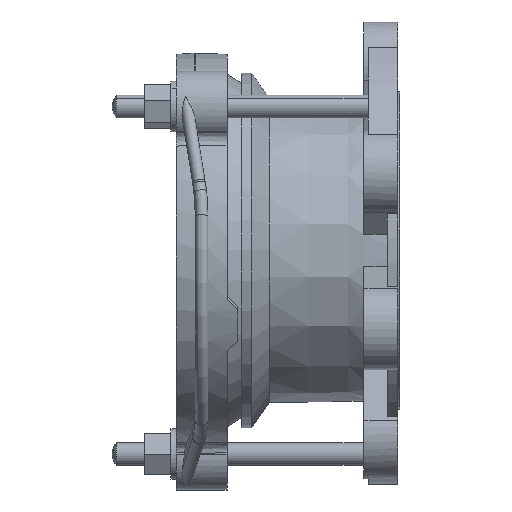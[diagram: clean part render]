
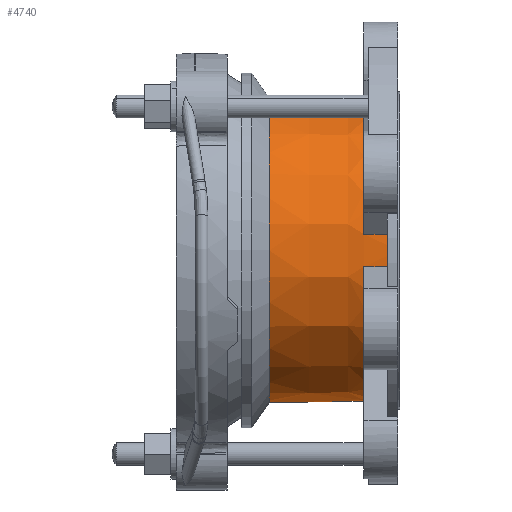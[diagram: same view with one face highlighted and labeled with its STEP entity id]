
A CAD part, left-side view. The second image highlights one B-rep face of the part: STEP entity #4740.
In plain terms, the highlighted conical face has half-angle 0.966 degrees and reference radius 71.487 mm.
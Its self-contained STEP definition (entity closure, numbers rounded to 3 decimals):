
#357=CARTESIAN_POINT('',(0.,-88.7,0.));
#358=DIRECTION('',(0.,1.,0.));
#359=DIRECTION('',(-0.108,0.,-0.994));
#360=AXIS2_PLACEMENT_3D('',#357,#358,#359);
#393=CARTESIAN_POINT('',(0.,-90.7,0.));
#394=DIRECTION('',(0.,-1.,0.));
#395=DIRECTION('',(-0.627,0.,0.779));
#396=AXIS2_PLACEMENT_3D('',#393,#394,#395);
#398=CARTESIAN_POINT('',(-55.449,-90.7,44.615));
#399=CARTESIAN_POINT('',(-55.454,-90.367,44.618));
#400=CARTESIAN_POINT('',(-55.465,-89.7,44.622));
#401=CARTESIAN_POINT('',(-55.476,-89.033,44.627));
#402=CARTESIAN_POINT('',(-55.481,-88.7,44.629));
#404=CARTESIAN_POINT('',(-70.788,-88.7,7.674));
#405=CARTESIAN_POINT('',(-70.769,-89.924,7.665));
#406=CARTESIAN_POINT('',(-70.729,-92.371,7.649));
#407=CARTESIAN_POINT('',(-70.669,-96.037,7.624));
#408=CARTESIAN_POINT('',(-70.63,-98.48,7.608));
#409=CARTESIAN_POINT('',(-70.61,-99.7,7.6));
#411=CARTESIAN_POINT('',(0.,-99.7,0.));
#412=DIRECTION('',(0.,1.,0.));
#413=DIRECTION('',(-0.994,0.,-0.107));
#414=AXIS2_PLACEMENT_3D('',#411,#412,#413);
#416=CARTESIAN_POINT('',(-70.61,-99.7,-7.6));
#417=CARTESIAN_POINT('',(-70.63,-98.48,
-7.608));
#418=CARTESIAN_POINT('',(-70.669,-96.037,
-7.624));
#419=CARTESIAN_POINT('',(-70.729,-92.371,
-7.649));
#420=CARTESIAN_POINT('',(-70.769,-89.924,
-7.665));
#421=CARTESIAN_POINT('',(-70.788,-88.7,-7.674));
#423=CARTESIAN_POINT('',(-55.481,-88.7,-44.629));
#424=CARTESIAN_POINT('',(-55.461,-89.924,
-44.621));
#425=CARTESIAN_POINT('',(-55.421,-92.371,
-44.604));
#426=CARTESIAN_POINT('',(-55.362,-96.037,
-44.58));
#427=CARTESIAN_POINT('',(-55.322,-98.48,
-44.563));
#428=CARTESIAN_POINT('',(-55.302,-99.7,-44.555));
#430=CARTESIAN_POINT('',(0.,-99.7,0.));
#431=DIRECTION('',(0.,1.,0.));
#432=DIRECTION('',(-0.627,0.,-0.779));
#433=AXIS2_PLACEMENT_3D('',#430,#431,#432);
#435=CARTESIAN_POINT('',(-44.555,-99.7,-55.302));
#436=CARTESIAN_POINT('',(-44.563,-98.48,
-55.322));
#437=CARTESIAN_POINT('',(-44.58,-96.037,
-55.362));
#438=CARTESIAN_POINT('',(-44.604,-92.371,
-55.421));
#439=CARTESIAN_POINT('',(-44.621,-89.924,
-55.461));
#440=CARTESIAN_POINT('',(-44.629,-88.7,-55.481));
#442=CARTESIAN_POINT('',(-7.674,-88.7,-70.788));
#443=CARTESIAN_POINT('',(-7.671,-89.033,
-70.783));
#444=CARTESIAN_POINT('',(-7.667,-89.7,
-70.772));
#445=CARTESIAN_POINT('',(-7.662,-90.367,
-70.761));
#446=CARTESIAN_POINT('',(-7.66,-90.7,-70.756));
#448=CARTESIAN_POINT('',(0.,-90.7,0.));
#449=DIRECTION('',(0.,-1.,0.));
#450=DIRECTION('',(-0.108,0.,-0.994));
#451=AXIS2_PLACEMENT_3D('',#448,#449,#450);
#453=DIRECTION('',(0.,1.,-0.017));
#454=VECTOR('',#453,46.661);
#455=CARTESIAN_POINT('',(0.,-90.7,-71.169));
#456=LINE('',#455,#454);
#457=DIRECTION('',(0.,1.,0.017));
#458=VECTOR('',#457,55.663);
#459=CARTESIAN_POINT('',(0.,-99.7,71.018));
#460=LINE('',#459,#458);
#461=CARTESIAN_POINT('',(0.,-99.7,0.));
#462=DIRECTION('',(0.,1.,0.));
#463=DIRECTION('',(-0.107,0.,0.994));
#464=AXIS2_PLACEMENT_3D('',#461,#462,#463);
#466=CARTESIAN_POINT('',(-7.6,-99.7,70.61));
#467=CARTESIAN_POINT('',(-7.608,-98.48,70.63));
#468=CARTESIAN_POINT('',(-7.624,-96.037,70.669));
#469=CARTESIAN_POINT('',(-7.649,-92.371,70.729));
#470=CARTESIAN_POINT('',(-7.665,-89.924,70.769));
#471=CARTESIAN_POINT('',(-7.674,-88.7,70.788));
#473=CARTESIAN_POINT('',(-44.629,-88.7,55.481));
#474=CARTESIAN_POINT('',(-44.627,-89.033,55.476));
#475=CARTESIAN_POINT('',(-44.622,-89.7,55.465));
#476=CARTESIAN_POINT('',(-44.618,-90.367,55.454));
#477=CARTESIAN_POINT('',(-44.615,-90.7,55.449));
#2718=CARTESIAN_POINT('',(0.,-44.045,0.));
#2719=DIRECTION('',(0.,1.,0.));
#2720=DIRECTION('',(0.,0.,-1.));
#2721=AXIS2_PLACEMENT_3D('',#2718,#2719,#2720);
#3149=CARTESIAN_POINT('',(0.,-88.7,0.));
#3150=DIRECTION('',(0.,1.,0.));
#3151=DIRECTION('',(-0.627,0.,0.779));
#3152=AXIS2_PLACEMENT_3D('',#3149,#3150,#3151);
#3214=CARTESIAN_POINT('',(0.,-88.7,0.));
#3215=DIRECTION('',(0.,1.,0.));
#3216=DIRECTION('',(-0.994,0.,0.108));
#3217=AXIS2_PLACEMENT_3D('',#3214,#3215,#3216);
#3371=CARTESIAN_POINT('',(0.,-88.7,0.));
#3372=DIRECTION('',(0.,1.,0.));
#3373=DIRECTION('',(-0.779,0.,-0.627));
#3374=AXIS2_PLACEMENT_3D('',#3371,#3372,#3373);
#3668=CARTESIAN_POINT('',(0.,-44.045,-71.956));
#3670=VERTEX_POINT('',#3668);
#3684=CARTESIAN_POINT('',(0.,-99.7,71.018));
#3685=CARTESIAN_POINT('',(0.,-44.045,71.956));
#3686=VERTEX_POINT('',#3684);
#3687=VERTEX_POINT('',#3685);
#4062=CARTESIAN_POINT('',(-44.629,-88.7,55.481));
#4063=VERTEX_POINT('',#4062);
#4064=CARTESIAN_POINT('',(-7.674,-88.7,70.788));
#4065=VERTEX_POINT('',#4064);
#4088=CARTESIAN_POINT('',(-70.788,-88.7,7.674));
#4089=VERTEX_POINT('',#4088);
#4090=CARTESIAN_POINT('',(-55.481,-88.7,44.629));
#4091=VERTEX_POINT('',#4090);
#4116=CARTESIAN_POINT('',(-55.481,-88.7,-44.629));
#4117=VERTEX_POINT('',#4116);
#4118=CARTESIAN_POINT('',(-70.788,-88.7,-7.674));
#4119=VERTEX_POINT('',#4118);
#4142=CARTESIAN_POINT('',(-7.674,-88.7,-70.788));
#4143=VERTEX_POINT('',#4142);
#4144=CARTESIAN_POINT('',(-44.629,-88.7,-55.481));
#4145=VERTEX_POINT('',#4144);
#4187=CARTESIAN_POINT('',(-7.6,-99.7,70.61));
#4188=VERTEX_POINT('',#4187);
#4189=VERTEX_POINT('',#409);
#4198=CARTESIAN_POINT('',(-70.61,-99.7,-7.6));
#4199=VERTEX_POINT('',#4198);
#4204=CARTESIAN_POINT('',(-55.302,-99.7,-44.555));
#4205=VERTEX_POINT('',#4204);
#4206=VERTEX_POINT('',#435);
#4211=CARTESIAN_POINT('',(0.,-90.7,-71.169));
#4213=VERTEX_POINT('',#4211);
#4215=CARTESIAN_POINT('',(-7.66,-90.7,-70.756));
#4216=VERTEX_POINT('',#4215);
#4245=CARTESIAN_POINT('',(-44.615,-90.7,55.449));
#4246=CARTESIAN_POINT('',(-55.449,-90.7,44.615));
#4247=VERTEX_POINT('',#4245);
#4248=VERTEX_POINT('',#4246);
#4696=CARTESIAN_POINT('',(0.,-71.873,0.));
#4697=DIRECTION('',(0.,1.,0.));
#4698=DIRECTION('',(0.,0.,-1.));
#4699=AXIS2_PLACEMENT_3D('',#4696,#4697,#4698);
#4700=CONICAL_SURFACE('',#4699,71.487,0.966);
#4702=ORIENTED_EDGE('',*,*,#4701,.T.);
#4704=ORIENTED_EDGE('',*,*,#4703,.T.);
#4706=ORIENTED_EDGE('',*,*,#4705,.F.);
#4708=ORIENTED_EDGE('',*,*,#4707,.T.);
#4710=ORIENTED_EDGE('',*,*,#4709,.F.);
#4712=ORIENTED_EDGE('',*,*,#4711,.T.);
#4714=ORIENTED_EDGE('',*,*,#4713,.F.);
#4716=ORIENTED_EDGE('',*,*,#4715,.T.);
#4718=ORIENTED_EDGE('',*,*,#4717,.F.);
#4720=ORIENTED_EDGE('',*,*,#4719,.T.);
#4721=ORIENTED_EDGE('',*,*,#4679,.F.);
#4723=ORIENTED_EDGE('',*,*,#4722,.T.);
#4725=ORIENTED_EDGE('',*,*,#4724,.T.);
#4726=ORIENTED_EDGE('',*,*,#4332,.T.);
#4728=ORIENTED_EDGE('',*,*,#4727,.T.);
#4729=ORIENTED_EDGE('',*,*,#4328,.F.);
#4731=ORIENTED_EDGE('',*,*,#4730,.F.);
#4733=ORIENTED_EDGE('',*,*,#4732,.T.);
#4735=ORIENTED_EDGE('',*,*,#4734,.F.);
#4737=ORIENTED_EDGE('',*,*,#4736,.T.);
#4738=EDGE_LOOP('',(#4702,#4704,#4706,#4708,#4710,#4712,#4714,#4716,#4718,#4720,
#4721,#4723,#4725,#4726,#4728,#4729,#4731,#4733,#4735,#4737));
#4739=FACE_OUTER_BOUND('',#4738,.F.);
#4740=ADVANCED_FACE('',(#4739),#4700,.T.);
#361=CIRCLE('',#360,71.203);
#397=CIRCLE('',#396,71.169);
#403=B_SPLINE_CURVE_WITH_KNOTS('',3,(#398,#399,#400,#401,#402),.UNSPECIFIED.,
.F.,.F.,(4,1,4),(0.,0.5,1.),.UNSPECIFIED.);
#410=B_SPLINE_CURVE_WITH_KNOTS('',3,(#404,#405,#406,#407,#408,#409),
.UNSPECIFIED.,.F.,.F.,(4,1,1,4),(0.,0.333,0.667,1.),
.UNSPECIFIED.);
#415=CIRCLE('',#414,71.018);
#422=B_SPLINE_CURVE_WITH_KNOTS('',3,(#416,#417,#418,#419,#420,#421),
.UNSPECIFIED.,.F.,.F.,(4,1,1,4),(0.,0.333,0.667,1.),
.UNSPECIFIED.);
#429=B_SPLINE_CURVE_WITH_KNOTS('',3,(#423,#424,#425,#426,#427,#428),
.UNSPECIFIED.,.F.,.F.,(4,1,1,4),(0.,0.333,0.667,1.),
.UNSPECIFIED.);
#434=CIRCLE('',#433,71.018);
#441=B_SPLINE_CURVE_WITH_KNOTS('',3,(#435,#436,#437,#438,#439,#440),
.UNSPECIFIED.,.F.,.F.,(4,1,1,4),(0.,0.333,0.667,1.),
.UNSPECIFIED.);
#447=B_SPLINE_CURVE_WITH_KNOTS('',3,(#442,#443,#444,#445,#446),.UNSPECIFIED.,
.F.,.F.,(4,1,4),(0.,0.5,1.),.UNSPECIFIED.);
#452=CIRCLE('',#451,71.169);
#465=CIRCLE('',#464,71.018);
#472=B_SPLINE_CURVE_WITH_KNOTS('',3,(#466,#467,#468,#469,#470,#471),
.UNSPECIFIED.,.F.,.F.,(4,1,1,4),(0.,0.333,0.667,1.),
.UNSPECIFIED.);
#478=B_SPLINE_CURVE_WITH_KNOTS('',3,(#473,#474,#475,#476,#477),.UNSPECIFIED.,
.F.,.F.,(4,1,4),(0.,0.5,1.),.UNSPECIFIED.);
#2722=CIRCLE('',#2721,71.956);
#3153=CIRCLE('',#3152,71.203);
#3218=CIRCLE('',#3217,71.203);
#3375=CIRCLE('',#3374,71.203);
#4328=EDGE_CURVE('',#3686,#3687,#460,.T.);
#4332=EDGE_CURVE('',#4213,#3670,#456,.T.);
#4679=EDGE_CURVE('',#4143,#4145,#361,.T.);
#4701=EDGE_CURVE('',#4247,#4248,#397,.T.);
#4703=EDGE_CURVE('',#4248,#4091,#403,.T.);
#4705=EDGE_CURVE('',#4089,#4091,#3218,.T.);
#4707=EDGE_CURVE('',#4089,#4189,#410,.T.);
#4709=EDGE_CURVE('',#4199,#4189,#415,.T.);
#4711=EDGE_CURVE('',#4199,#4119,#422,.T.);
#4713=EDGE_CURVE('',#4117,#4119,#3375,.T.);
#4715=EDGE_CURVE('',#4117,#4205,#429,.T.);
#4717=EDGE_CURVE('',#4206,#4205,#434,.T.);
#4719=EDGE_CURVE('',#4206,#4145,#441,.T.);
#4722=EDGE_CURVE('',#4143,#4216,#447,.T.);
#4724=EDGE_CURVE('',#4216,#4213,#452,.T.);
#4727=EDGE_CURVE('',#3670,#3687,#2722,.T.);
#4730=EDGE_CURVE('',#4188,#3686,#465,.T.);
#4732=EDGE_CURVE('',#4188,#4065,#472,.T.);
#4734=EDGE_CURVE('',#4063,#4065,#3153,.T.);
#4736=EDGE_CURVE('',#4063,#4247,#478,.T.);
